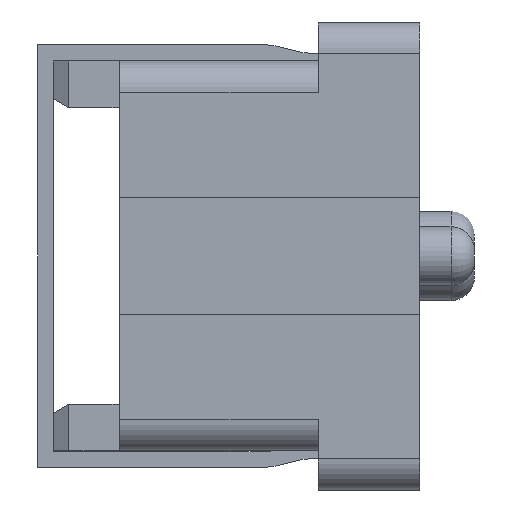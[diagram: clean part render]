
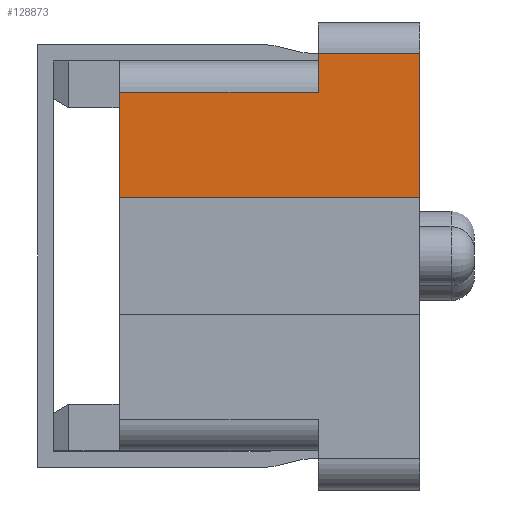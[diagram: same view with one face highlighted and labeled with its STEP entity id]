
A CAD part, left-side view. The second image highlights one B-rep face of the part: STEP entity #128873.
In plain terms, the highlighted planar face has unit normal (-1, 0, 0).
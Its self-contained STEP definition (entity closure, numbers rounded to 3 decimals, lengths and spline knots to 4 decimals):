
#5516 = CARTESIAN_POINT ( 'NONE',  ( -10.8325, -1.7432, 2.6 ) ) ;
#7136 = VERTEX_POINT ( 'NONE', #64908 ) ;
#9833 = EDGE_CURVE ( 'NONE', #20110, #7136, #80608, .T. ) ;
#10787 = CARTESIAN_POINT ( 'NONE',  ( -10.8325, 2.9568, 2.1 ) ) ;
#12531 = FACE_OUTER_BOUND ( 'NONE', #26857, .T. ) ;
#16177 = CARTESIAN_POINT ( 'NONE',  ( -10.8325, 2.1068, 2.1 ) ) ;
#16780 = VECTOR ( 'NONE', #65812, 1000. ) ;
#19701 = VECTOR ( 'NONE', #133580, 1000. ) ;
#20110 = VERTEX_POINT ( 'NONE', #46603 ) ;
#23065 = VECTOR ( 'NONE', #42104, 1000. ) ;
#26857 = EDGE_LOOP ( 'NONE', ( #150205, #91310, #184204, #173974, #212353, #96244 ) ) ;
#30367 = EDGE_CURVE ( 'NONE', #139184, #102417, #170308, .T. ) ;
#39712 = CARTESIAN_POINT ( 'NONE',  ( -10.8325, 2.1068, -3. ) ) ;
#42104 = DIRECTION ( 'NONE',  ( 0., 0., 1. ) ) ;
#46266 = LINE ( 'NONE', #231791, #16780 ) ;
#46603 = CARTESIAN_POINT ( 'NONE',  ( -10.8325, -0.4432, 2.1 ) ) ;
#52621 = CARTESIAN_POINT ( 'NONE',  ( -10.8325, 2.1068, 0.75 ) ) ;
#57482 = DIRECTION ( 'NONE',  ( 0., 0., -1. ) ) ;
#59158 = LINE ( 'NONE', #96979, #19701 ) ;
#64908 = CARTESIAN_POINT ( 'NONE',  ( -10.8325, -0.4432, 2.6 ) ) ;
#65812 = DIRECTION ( 'NONE',  ( 0., 1., 0. ) ) ;
#75809 = LINE ( 'NONE', #134313, #181467 ) ;
#80608 = LINE ( 'NONE', #118426, #121886 ) ;
#87009 = PLANE ( 'NONE',  #128399 ) ;
#91310 = ORIENTED_EDGE ( 'NONE', *, *, #230956, .T. ) ;
#96244 = ORIENTED_EDGE ( 'NONE', *, *, #182638, .T. ) ;
#96979 = CARTESIAN_POINT ( 'NONE',  ( -10.8325, -1.7432, 0.75 ) ) ;
#102417 = VERTEX_POINT ( 'NONE', #16177 ) ;
#109681 = EDGE_CURVE ( 'NONE', #217297, #139184, #59158, .T. ) ;
#112880 = VECTOR ( 'NONE', #199931, 1000. ) ;
#118426 = CARTESIAN_POINT ( 'NONE',  ( -10.8325, -0.4432, 2.5 ) ) ;
#121886 = VECTOR ( 'NONE', #136721, 1000. ) ;
#125973 = VERTEX_POINT ( 'NONE', #5516 ) ;
#128399 = AXIS2_PLACEMENT_3D ( 'NONE', #195664, #177342, #129661 ) ;
#128873 = ADVANCED_FACE ( 'NONE', ( #12531 ), #87009, .F. ) ;
#129661 = DIRECTION ( 'NONE',  ( 0., 1., 0. ) ) ;
#133580 = DIRECTION ( 'NONE',  ( 0., 1., 0. ) ) ;
#134313 = CARTESIAN_POINT ( 'NONE',  ( -10.8325, -1.7432, 3. ) ) ;
#136721 = DIRECTION ( 'NONE',  ( 0., 0., 1. ) ) ;
#139184 = VERTEX_POINT ( 'NONE', #52621 ) ;
#145002 = LINE ( 'NONE', #10787, #112880 ) ;
#150205 = ORIENTED_EDGE ( 'NONE', *, *, #9833, .F. ) ;
#170308 = LINE ( 'NONE', #39712, #23065 ) ;
#173974 = ORIENTED_EDGE ( 'NONE', *, *, #109681, .F. ) ;
#177342 = DIRECTION ( 'NONE',  ( 1., 0., 0. ) ) ;
#181467 = VECTOR ( 'NONE', #57482, 1000. ) ;
#182638 = EDGE_CURVE ( 'NONE', #125973, #7136, #46266, .T. ) ;
#182695 = CARTESIAN_POINT ( 'NONE',  ( -10.8325, -1.7432, 0.75 ) ) ;
#184204 = ORIENTED_EDGE ( 'NONE', *, *, #30367, .F. ) ;
#195664 = CARTESIAN_POINT ( 'NONE',  ( -10.8325, 2.9568, 3. ) ) ;
#199931 = DIRECTION ( 'NONE',  ( 0., 1., 0. ) ) ;
#212353 = ORIENTED_EDGE ( 'NONE', *, *, #215498, .F. ) ;
#215498 = EDGE_CURVE ( 'NONE', #125973, #217297, #75809, .T. ) ;
#217297 = VERTEX_POINT ( 'NONE', #182695 ) ;
#230956 = EDGE_CURVE ( 'NONE', #20110, #102417, #145002, .T. ) ;
#231791 = CARTESIAN_POINT ( 'NONE',  ( -10.8325, -0.4432, 2.6 ) ) ;
